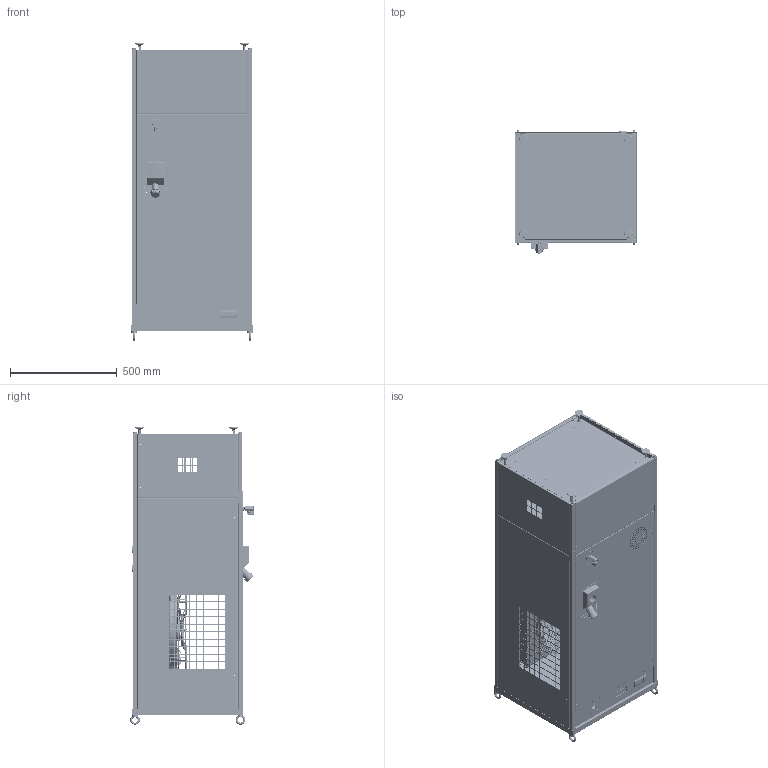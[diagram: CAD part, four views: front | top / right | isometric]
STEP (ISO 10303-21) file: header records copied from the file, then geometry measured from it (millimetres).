
FILE_DESCRIPTION (( 'STEP AP203' ), '1' );
FILE_NAME ('ECP2H-D_REV_00.STEP', '2026-07-23T09:13:42', ( '' ), ( '' ), 'SwSTEP 2.0', 'SolidWorks 2023', '' );
FILE_SCHEMA (( 'CONFIG_CONTROL_DESIGN' ));
Length unit declared in the file: millimetre
Products named in the file (44): COPIA_VR-2C-00040_002; COPIA_FILETTO_RUBINETTO_VA-A5-00001; COPIA_VR-2C-00075_000; COPIA_CR-1C-00033_000; COPIA_VR-2C-00064_006B; COPIA_SE-RP-00043; COPIA_VR-2C-00071_000; COPIA_VR-2C-00073_001; Parte1^COPIA_43-MI-E00004; COPIA_VR-2C-00072_000; COPIA_RIVELOX M5; COPIA_GO-LF-00001; COPIA_43-MI-E00004_43-MI-E00004_NO_BASE_E_PANN_FRONT; COPIA_VR-2C-00064_006C; COPIA_Dado M10; COPIA_CO-CF-00119_000; COPIA_TE-EL-00007 - EW_971_230V; COPIA_VR-2C-00064_006A; COPIA_50-2C-00029-30_50-2C-00029-30_NO_BASE_E_PANN_FRONT; COPIA_VR-2C-00064_006G_Default<A macchina>; COPIA_VR-2C-00064_006D; COPIA_CR-2C-00057_002; COPIA_ST-AT-00027_002; COPIA_AN-PI-00027_000; COPIA_VR-2C-00074_000; COPIA_VR-2C-00064_006; COPIA_50-2C-00031_000; COPIA_ZP-TA-00006; COPIA_ZF-BU-00027_000; COPIA_VR-2C-00078_001; COPIA_CR-2C-00051_001; COPIA_VR-2C-00062_001; COPIA_TA-RG-00041; ECP2H-D_REV_00; COPIA_VR-2C-00064_006E; COPIA_VR-2C-00070_001; COPIA_VR-2C-00064_006F; COPIA_VE-W2-00004; COPIA_VR-2C-00061_000; COPIA_VA-A5-00001
Assembly tree (75 placements, depth 5):
  Parte1^COPIA_43-MI-E00004
  ECP2H-D_REV_00
    COPIA_43-MI-E00004_43-MI-E00004_NO_BASE_E_PANN_FRONT
      COPIA_50-2C-00029-30_50-2C-00029-30_NO_BASE_E_PANN_FRONT
        COPIA_VR-2C-00071_000
        COPIA_VR-2C-00072_000
        COPIA_VR-2C-00073_001
        COPIA_CR-2C-00057_002
        COPIA_CR-1C-00033_000
        COPIA_VR-2C-00070_001
        COPIA_VR-2C-00040_002
        COPIA_VR-2C-00074_000
        COPIA_VR-2C-00075_000
        COPIA_CR-2C-00051_001
        COPIA_TA-RG-00041
      COPIA_CO-CF-00119_000
      COPIA_VE-W2-00004
      COPIA_ZF-BU-00027_000  x4
      COPIA_GO-LF-00001  x4
    COPIA_50-2C-00031_000
      COPIA_VR-2C-00061_000
      COPIA_VR-2C-00062_001  x2
      COPIA_VR-2C-00064_006
        COPIA_VR-2C-00064_006A
          COPIA_VR-2C-00064_006A
          COPIA_RIVELOX M5  x4
          COPIA_Dado M10  x4
        COPIA_VR-2C-00064_006B
          COPIA_VR-2C-00064_006B
          COPIA_RIVELOX M5  x4
        COPIA_VR-2C-00064_006C
          COPIA_VR-2C-00064_006C
          COPIA_RIVELOX M5  x4
        COPIA_VR-2C-00064_006D
          COPIA_VR-2C-00064_006D
          COPIA_RIVELOX M5  x4
        COPIA_VR-2C-00064_006E
        COPIA_VR-2C-00064_006F  x2
        COPIA_VR-2C-00064_006G_Default<A macchina>  x4
      COPIA_VR-2C-00078_001
      COPIA_AN-PI-00027_000  x4
    COPIA_ST-AT-00027_002  x2
    COPIA_TE-EL-00007 - EW_971_230V
    COPIA_SE-RP-00043
    COPIA_FILETTO_RUBINETTO_VA-A5-00001
    COPIA_ZP-TA-00006
    COPIA_VA-A5-00001
Bounding box: 570 x 577.9 x 1390.2 mm (x, y, z)
Volume: 23757781.3 mm3; surface area: 15329397.3 mm2
Topology: 252 solids, 252 shells, 10706 faces, 27917 edges, 17743 vertices
Faces by surface type: plane 5334, cylinder 3191, torus 942, cone 663, bspline 526, sphere 50
Entity records: 402386 total; most frequent: CARTESIAN_POINT 144819, ORIENTED_EDGE 52702, DIRECTION 51256, EDGE_CURVE 26351, AXIS2_PLACEMENT_3D 17745, VERTEX_POINT 16790, VECTOR 15766, LINE 15766
